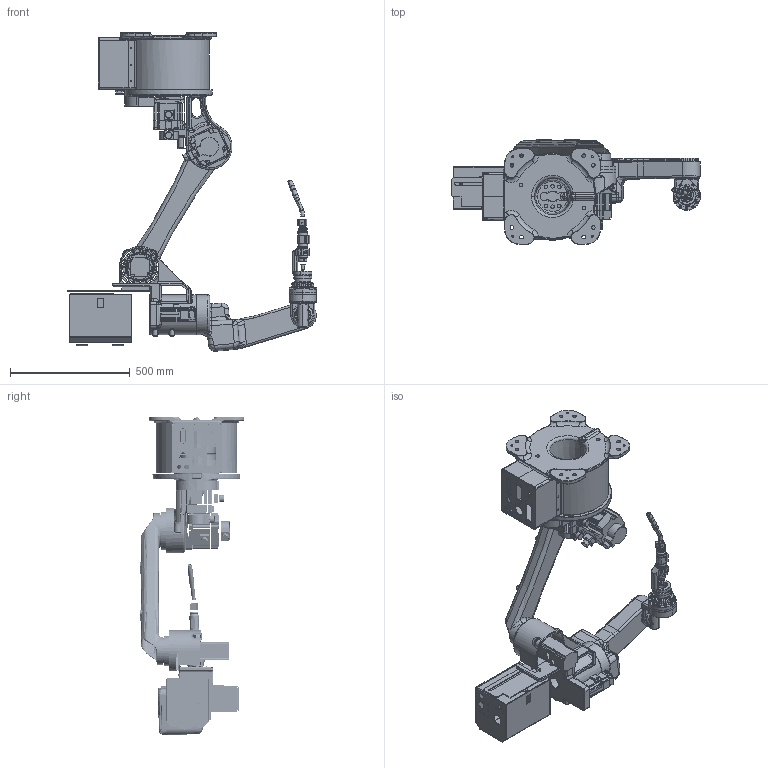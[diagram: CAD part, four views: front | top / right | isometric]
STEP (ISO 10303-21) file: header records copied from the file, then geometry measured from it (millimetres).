
FILE_DESCRIPTION((''),'2;1');
FILE_NAME('LT1450-C-6_ASM','2023-02-17T13:33:08',('EBDGC-08'),(''),'CREO PARAMETRIC BY PTC INC, 2021063','CREO PARAMETRIC BY PTC INC, 2021063','');
FILE_SCHEMA(('AUTOMOTIVE_DESIGN { 1 0 10303 214 1 1 1 1 }'));
Length unit declared in the file: millimetre
Products named in the file (8): 0002; 0003; 0004; 0005; 0006; 007; 008; LT1450-C-6_ASM
Assembly tree (7 placements, depth 2):
  LT1450-C-6_ASM
    0002
    0003
    0004
    0005
    0006
    007
    008
Bounding box: 1041.25 x 438 x 1330.89 mm (x, y, z)
Surface area: 3784993.4 mm2 (no closed solid volume)
Topology: 0 solids, 260 shells, 5178 faces, 16808 edges, 12004 vertices
Faces by surface type: plane 2244, extrusion 1330, cylinder 854, torus 341, bspline 254, cone 105, sphere 50
Entity records: 261375 total; most frequent: CARTESIAN_POINT 119652, ORIENTED_EDGE 28934, DIRECTION 25439, EDGE_CURVE 16725, VERTEX_POINT 12004, VECTOR 9729, LINE 8399, AXIS2_PLACEMENT_3D 7843
